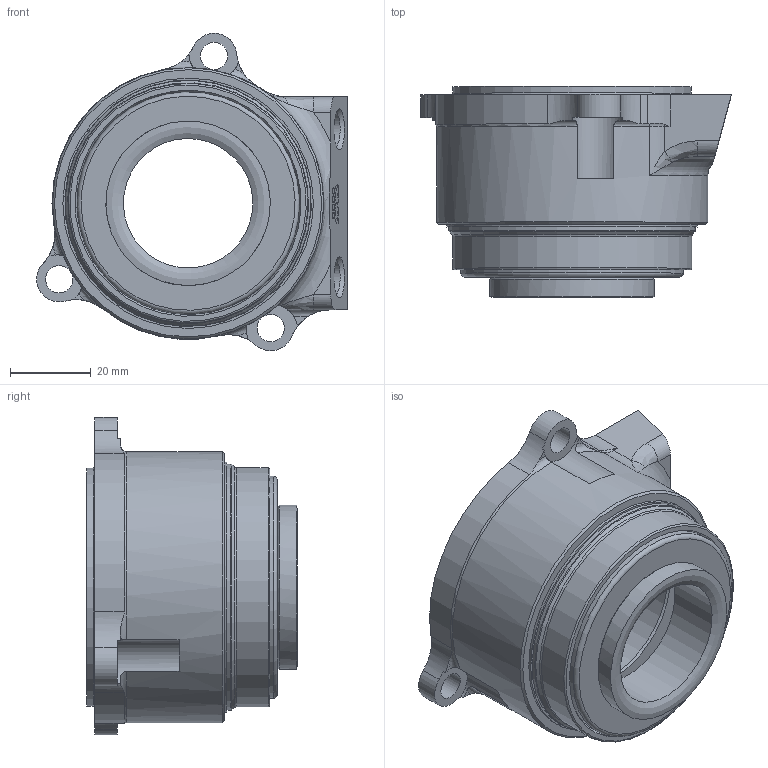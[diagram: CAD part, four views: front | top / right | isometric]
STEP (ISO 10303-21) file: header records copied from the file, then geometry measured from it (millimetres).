
FILE_DESCRIPTION(/* description */ ('Unknown'),/* implementation_level */ '2;1');
FILE_NAME(/* name */ '60-0310 ASSEMBLY',/* time_stamp */ '2023-03-03T10:41:31-08:00',/* author */ ('Unknown'),/* organization */ ('Unknown'),/* preprocessor_version */ 'ST-DEVELOPER v16.7',/* originating_system */ 'DEX',/* authorisation */ $);
FILE_SCHEMA (('AUTOMOTIVE_DESIGN {1 0 10303 214 3 1 1}'));
Length unit declared in the file: millimetre
Products named in the file (1): 60-0310 ASSEMBLY
Bounding box: 76.82 x 52.14 x 78.43 mm (x, y, z)
Volume: 104163.1 mm3; surface area: 30993.2 mm2
Topology: 2 solids, 3 shells, 185 faces, 447 edges, 289 vertices
Faces by surface type: plane 86, cylinder 39, bspline 29, torus 17, cone 14
Full cylindrical faces by diameter (mm): 6.756 x3, 8.379 x2, 32.004 x1, 35.001 x2, 38.1 x1, 40.64 x1, 54.991 x1, 54.997 x1, 57.214 x1, 58.938 x1, 59.182 x1, 60.96 x1, 61.925 x1, 67.056 x1
Entity records: 7442 total; most frequent: CARTESIAN_POINT 2170, ORIENTED_EDGE 768, DIRECTION 747, EDGE_CURVE 384, AXIS2_PLACEMENT_3D 283, VERTEX_POINT 281, FACE_BOUND 273, EDGE_LOOP 271
